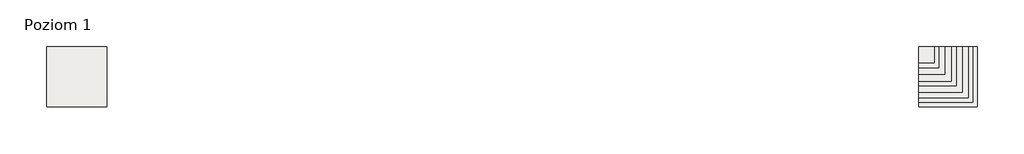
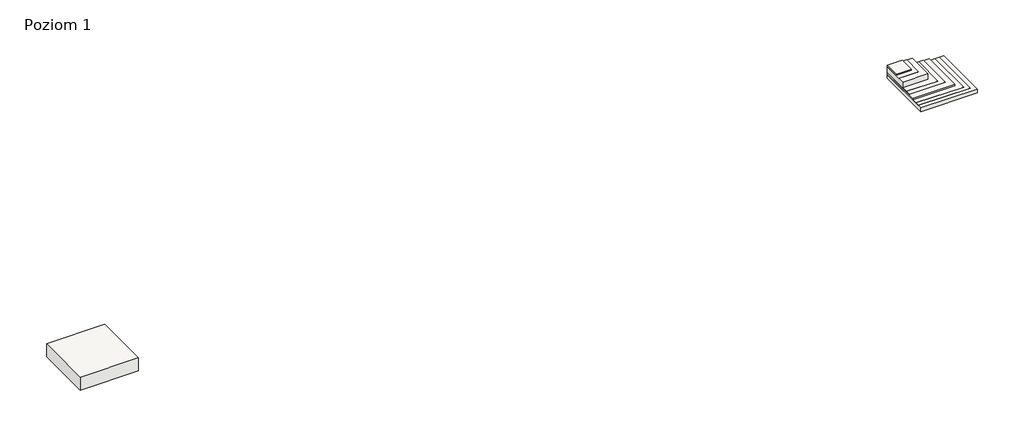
# One storey: 2 roofs.
"""IFC4 building model written with IfcOpenShell, lengths in millimetres."""

from ifc_helpers import new_model, si_unit, frame, origin, origin_with_axes, place, context, project, spatial, polyline, outline, extrude, element, save

model = new_model("IFC4")

# Units and contexts
model_context = context("Model", 3, world=origin())
ifc_project = project(units=[si_unit("LENGTHUNIT", "METRE", prefix="MILLI")], contexts=[model_context])

# Site, building, storey
site = spatial("IfcSite", under=ifc_project)
building = spatial("IfcBuilding", under=site)
storey = spatial("IfcBuildingStorey", under=building, Name="Poziom 1", Elevation=0.0)

# Roofs
placement = place(None, origin())
element("IfcRoof", 1, ObjectType="Dach komunikacyjny CRICKET – kołowy - układ odwrócony", at=placement, inside=storey, context=model_context, shape_type="SweptSolid", body=[
    extrude(outline(polyline([(25205.1555546, -525.5470033), (28205.1555546, -525.5470033), (28205.1555546, -3525.5470033), (25205.1555546, -3525.5470033), (25205.1555546, -525.5470033)])), origin_with_axes(), (0.0, 0.0, 1.0), 705.0),
])
element("IfcRoof", 2, ObjectType="Dach komunikacyjny CRICKET – kołowy - układ odwrócony", at=placement, inside=storey, context=model_context, shape_type="SweptSolid", body=[
    extrude(outline(polyline([(68505.1555546, -525.5470033), (69274.6514475, -525.5470033), (69274.6514475, -1325.5470033), (68505.1555546, -1325.5470033), (68505.1555546, -525.5470033)])), frame((0.0, 0.0, 645.0), z_axis=(0.0, 0.0, 1.0), x_axis=(1.0, 0.0, 0.0)), (0.0, 0.0, 1.0), 60.0),
    extrude(outline(polyline([(68505.1555546, -525.5470033), (69513.3580355, -525.5470033), (69513.3580355, -1575.8862993), (68505.1555546, -1575.8862993), (68505.1555546, -525.5470033)])), frame((0.0, 0.0, 625.0), z_axis=(0.0, 0.0, 1.0), x_axis=(1.0, 0.0, 0.0)), (0.0, 0.0, 1.0), 20.0),
    extrude(outline(polyline([(68505.1555546, -525.5470033), (69805.1555546, -525.5470033), (69805.1555546, -1905.5470033), (68505.1555546, -1905.5470033), (68505.1555546, -525.5470033)])), frame((0.0, 0.0, 325.0), z_axis=(0.0, 0.0, 1.0), x_axis=(1.0, 0.0, 0.0)), (0.0, 0.0, 1.0), 300.0),
    extrude(outline(polyline([(68505.1555546, -525.5470033), (70125.1555546, -525.5470033), (70125.1555546, -2245.5470033), (68505.1555546, -2245.5470033), (68505.1555546, -525.5470033)])), frame((0.0, 0.0, 324.0), z_axis=(0.0, 0.0, 1.0), x_axis=(1.0, 0.0, 0.0)), (0.0, 0.0, 1.0), 1.0),
    extrude(outline(polyline([(68505.1555546, -525.5470033), (70676.1542991, -525.5470033), (70676.1542991, -2801.1513671), (68505.1555546, -2801.1513671), (68505.1555546, -525.5470033)])), frame((0.0, 0.0, 204.0), z_axis=(0.0, 0.0, 1.0), x_axis=(1.0, 0.0, 0.0)), (0.0, 0.0, 1.0), 100.0),
    extrude(outline(polyline([(68505.1555546, -525.5470033), (70966.4963765, -525.5470033), (70966.4963765, -3077.5062833), (68505.1555546, -3077.5062833), (68505.1555546, -525.5470033)])), frame((0.0, 0.0, 202.0), z_axis=(0.0, 0.0, 1.0), x_axis=(1.0, 0.0, 0.0)), (0.0, 0.0, 1.0), 2.0),
    extrude(outline(polyline([(68505.1555546, -525.5470033), (71185.1555546, -525.5470033), (71185.1555546, -3296.6662581), (68505.1555546, -3296.6662581), (68505.1555546, -525.5470033)])), frame((0.0, 0.0, 200.0), z_axis=(0.0, 0.0, 1.0), x_axis=(1.0, 0.0, 0.0)), (0.0, 0.0, 1.0), 2.0),
    extrude(outline(polyline([(68505.1555546, -525.5470033), (70373.8276505, -525.5470033), (70373.8276505, -2484.0378576), (68505.1555546, -2484.0378576), (68505.1555546, -525.5470033)])), frame((0.0, 0.0, 304.0), z_axis=(0.0, 0.0, 1.0), x_axis=(1.0, 0.0, 0.0)), (0.0, 0.0, 1.0), 20.0),
    extrude(outline(polyline([(68505.1555546, -525.5470033), (71425.241632, -525.5470033), (71425.241632, -3525.5470033), (68505.1555546, -3525.5470033), (68505.1555546, -525.5470033)])), origin_with_axes(), (0.0, 0.0, 1.0), 200.0),
])

save(model, "model.ifc")
